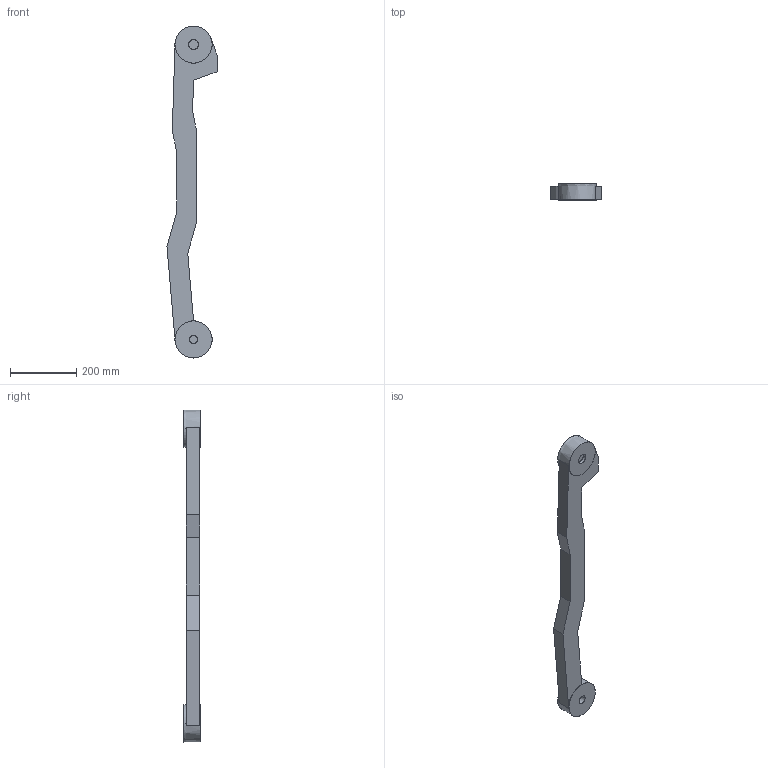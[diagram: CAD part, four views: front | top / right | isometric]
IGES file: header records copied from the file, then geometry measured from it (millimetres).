
Start section: SolidWorks IGES file using analytic representation for surfaces
Global section: file name: C:\Users\sefaane2\Downloads\Sparad modell IRB4400 10\Final SolidWorks CADSIM models and .txt file\Macro\Macro_IRC5_IGES_j\IRB4400_L10-253_IRC5_rev03_LINKROD_CAD.IGS; native system: SolidWorks 2014; preprocessor: SolidWorks 2014; author: SEFAANE2; date: 161103.132441; units: millimetre
Bounding box: 151.33 x 48.5 x 1002 mm (x, y, z)
Surface area: 246010.2 mm2 (no closed solid volume)
Topology: 0 solids, 0 shells, 30 faces, 654 edges, 654 vertices
Faces by surface type: bspline 21, revolution 9
